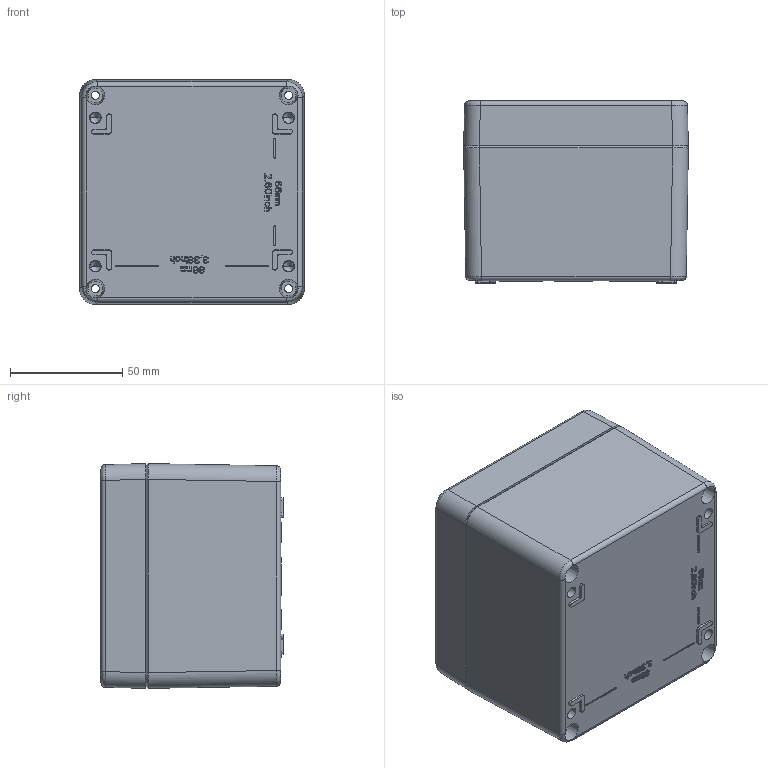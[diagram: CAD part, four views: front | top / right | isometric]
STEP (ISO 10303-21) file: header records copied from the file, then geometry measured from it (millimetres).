
FILE_DESCRIPTION (( 'STEP AP203' ), '1' );
FILE_NAME ('BB041.STEP', '2024-12-26T16:33:38', ( '' ), ( '' ), 'SwSTEP 2.0', 'SolidWorks 2019', '' );
FILE_SCHEMA (( 'CONFIG_CONTROL_DESIGN' ));
Length unit declared in the file: millimetre
Products named in the file (3): LID_100_100_81; BASE_100_100_81; BB041
Assembly tree (2 placements, depth 2):
  BB041
    BASE_100_100_81
    LID_100_100_81
Bounding box: 100 x 81 x 100 mm (x, y, z)
Volume: 213169.7 mm3; surface area: 108257.8 mm2
Topology: 2 solids, 2 shells, 1594 faces, 4331 edges, 2817 vertices
Faces by surface type: plane 1123, cylinder 200, cone 141, bspline 130
Entity records: 60052 total; most frequent: CARTESIAN_POINT 20633, ORIENTED_EDGE 8630, DIRECTION 7232, EDGE_CURVE 4315, LINE 3432, VECTOR 3432, VERTEX_POINT 2817, AXIS2_PLACEMENT_3D 1900
